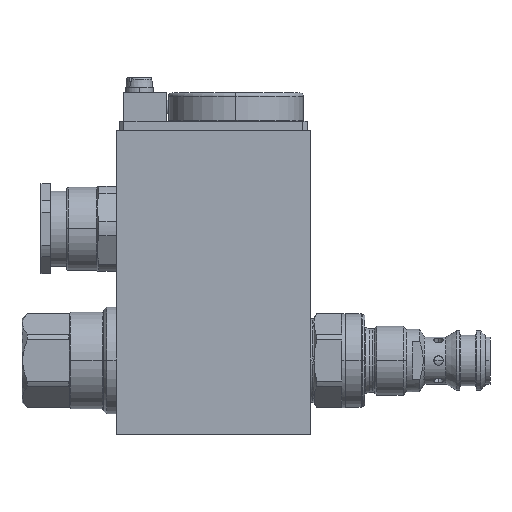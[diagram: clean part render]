
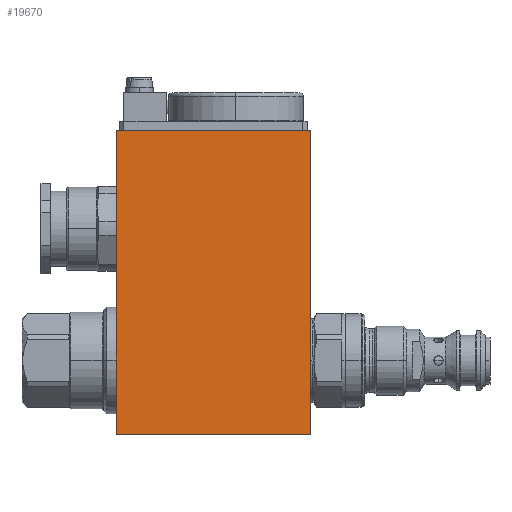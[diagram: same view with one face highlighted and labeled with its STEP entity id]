
A CAD part, top view. The second image highlights one B-rep face of the part: STEP entity #19670.
In plain terms, the highlighted planar face has unit normal (0, 0, 1).
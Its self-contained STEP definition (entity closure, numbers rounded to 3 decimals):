
#255 = EDGE_CURVE ( 'NONE', #5488, #12847, #9019, .T. ) ;
#454 = DIRECTION ( 'NONE',  ( -1., 0., 0. ) ) ;
#699 = DIRECTION ( 'NONE',  ( -1., 0., 0. ) ) ;
#925 = VECTOR ( 'NONE', #454, 1000. ) ;
#933 = CARTESIAN_POINT ( 'NONE',  ( -17.2, -23.5, 23.5 ) ) ;
#1599 = VECTOR ( 'NONE', #699, 1000. ) ;
#1853 = FACE_OUTER_BOUND ( 'NONE', #11246, .T. ) ;
#1952 = CARTESIAN_POINT ( 'NONE',  ( -79.2, 73.3, 23.5 ) ) ;
#2352 = CARTESIAN_POINT ( 'NONE',  ( 90.407, -23.5, 23.5 ) ) ;
#2727 = VERTEX_POINT ( 'NONE', #19231 ) ;
#3777 = LINE ( 'NONE', #7042, #7803 ) ;
#3864 = DIRECTION ( 'NONE',  ( 1., 0., 0. ) ) ;
#4157 = EDGE_CURVE ( 'NONE', #5488, #19666, #4957, .T. ) ;
#4957 = LINE ( 'NONE', #11074, #925 ) ;
#5488 = VERTEX_POINT ( 'NONE', #9055 ) ;
#5651 = EDGE_CURVE ( 'NONE', #2727, #19666, #3777, .T. ) ;
#6336 = ORIENTED_EDGE ( 'NONE', *, *, #5651, .F. ) ;
#7042 = CARTESIAN_POINT ( 'NONE',  ( -79.2, -23.5, 23.5 ) ) ;
#7119 = DIRECTION ( 'NONE',  ( 0., -1., 0. ) ) ;
#7431 = ORIENTED_EDGE ( 'NONE', *, *, #255, .F. ) ;
#7803 = VECTOR ( 'NONE', #17847, 1000. ) ;
#8059 = PLANE ( 'NONE',  #18502 ) ;
#9019 = LINE ( 'NONE', #13317, #19255 ) ;
#9055 = CARTESIAN_POINT ( 'NONE',  ( -17.2, 73.3, 23.5 ) ) ;
#11074 = CARTESIAN_POINT ( 'NONE',  ( 90.407, 73.3, 23.5 ) ) ;
#11246 = EDGE_LOOP ( 'NONE', ( #7431, #14021, #6336, #12376 ) ) ;
#11327 = CARTESIAN_POINT ( 'NONE',  ( 90.407, -23.5, 23.5 ) ) ;
#12376 = ORIENTED_EDGE ( 'NONE', *, *, #15355, .F. ) ;
#12847 = VERTEX_POINT ( 'NONE', #933 ) ;
#13030 = DIRECTION ( 'NONE',  ( 0., 0., 1. ) ) ;
#13317 = CARTESIAN_POINT ( 'NONE',  ( -17.2, -23.5, 23.5 ) ) ;
#14021 = ORIENTED_EDGE ( 'NONE', *, *, #4157, .T. ) ;
#14830 = LINE ( 'NONE', #11327, #1599 ) ;
#15355 = EDGE_CURVE ( 'NONE', #12847, #2727, #14830, .T. ) ;
#17847 = DIRECTION ( 'NONE',  ( 0., 1., 0. ) ) ;
#18502 = AXIS2_PLACEMENT_3D ( 'NONE', #2352, #13030, #3864 ) ;
#19231 = CARTESIAN_POINT ( 'NONE',  ( -79.2, -23.5, 23.5 ) ) ;
#19255 = VECTOR ( 'NONE', #7119, 1000. ) ;
#19666 = VERTEX_POINT ( 'NONE', #1952 ) ;
#19670 = ADVANCED_FACE ( 'NONE', ( #1853 ), #8059, .T. ) ;
